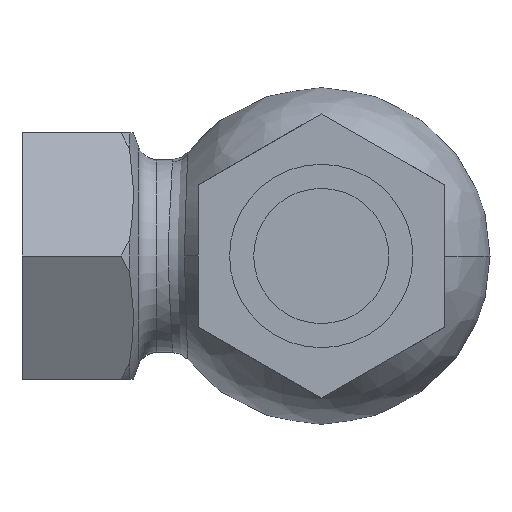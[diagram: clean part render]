
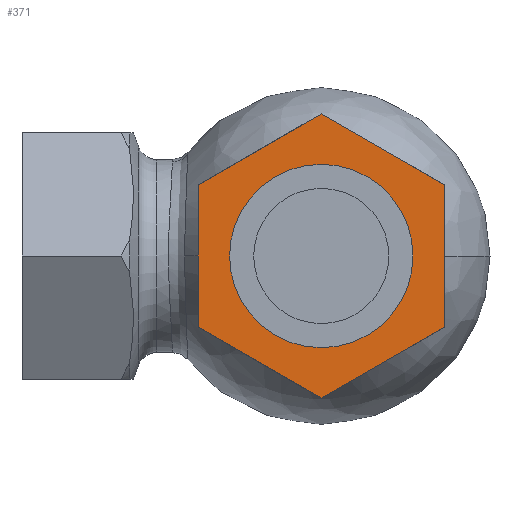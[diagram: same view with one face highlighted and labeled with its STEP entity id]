
A CAD part, front view. The second image highlights one B-rep face of the part: STEP entity #371.
In plain terms, the highlighted planar face has unit normal (0, -1, 0).
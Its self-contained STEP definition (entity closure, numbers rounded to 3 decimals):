
#43 = AXIS2_PLACEMENT_3D ( 'NONE', #6300, #3689, #4902 ) ;
#77 = EDGE_CURVE ( 'NONE', #5910, #2987, #213, .T. ) ;
#92 = LINE ( 'NONE', #5645, #1635 ) ;
#192 = CARTESIAN_POINT ( 'NONE',  ( 9.5, -25., 0. ) ) ;
#213 = CIRCLE ( 'NONE', #1811, 9.5 ) ;
#371 = ADVANCED_FACE ( 'NONE', ( #5614, #6328 ), #2210, .F. ) ;
#531 = VERTEX_POINT ( 'NONE', #7267 ) ;
#1054 = CIRCLE ( 'NONE', #43, 9.5 ) ;
#1580 = CARTESIAN_POINT ( 'NONE',  ( -12.75, -25., -7.361 ) ) ;
#1634 = ORIENTED_EDGE ( 'NONE', *, *, #8003, .T. ) ;
#1635 = VECTOR ( 'NONE', #2147, 1000. ) ;
#1639 = DIRECTION ( 'NONE',  ( 0., 1., 0. ) ) ;
#1652 = VERTEX_POINT ( 'NONE', #3824 ) ;
#1811 = AXIS2_PLACEMENT_3D ( 'NONE', #2806, #6257, #5546 ) ;
#2078 = VECTOR ( 'NONE', #8426, 1000. ) ;
#2147 = DIRECTION ( 'NONE',  ( 0.866, 0., 0.5 ) ) ;
#2210 = PLANE ( 'NONE',  #5509 ) ;
#2400 = CARTESIAN_POINT ( 'NONE',  ( 12.75, -25., 7.361 ) ) ;
#2409 = ORIENTED_EDGE ( 'NONE', *, *, #4478, .T. ) ;
#2510 = EDGE_CURVE ( 'NONE', #5686, #1652, #5687, .T. ) ;
#2806 = CARTESIAN_POINT ( 'NONE',  ( 0., -25., 0. ) ) ;
#2987 = VERTEX_POINT ( 'NONE', #7730 ) ;
#3107 = VERTEX_POINT ( 'NONE', #8173 ) ;
#3138 = CARTESIAN_POINT ( 'NONE',  ( 12.75, -25., 7.361 ) ) ;
#3375 = VERTEX_POINT ( 'NONE', #3398 ) ;
#3398 = CARTESIAN_POINT ( 'NONE',  ( 12.75, -25., -7.361 ) ) ;
#3605 = ORIENTED_EDGE ( 'NONE', *, *, #2510, .T. ) ;
#3642 = VECTOR ( 'NONE', #6674, 1000. ) ;
#3689 = DIRECTION ( 'NONE',  ( 0., 1., 0. ) ) ;
#3783 = LINE ( 'NONE', #2400, #5914 ) ;
#3824 = CARTESIAN_POINT ( 'NONE',  ( -12.75, -25., -7.361 ) ) ;
#3847 = CARTESIAN_POINT ( 'NONE',  ( 0., -25., 9.5 ) ) ;
#3989 = ORIENTED_EDGE ( 'NONE', *, *, #7877, .T. ) ;
#4014 = EDGE_LOOP ( 'NONE', ( #7177, #1634 ) ) ;
#4068 = ORIENTED_EDGE ( 'NONE', *, *, #8261, .T. ) ;
#4286 = DIRECTION ( 'NONE',  ( 0.866, 0., -0.5 ) ) ;
#4330 = EDGE_LOOP ( 'NONE', ( #4068, #2409, #3605, #3989, #7632, #6757 ) ) ;
#4351 = DIRECTION ( 'NONE',  ( 0., 0., 1. ) ) ;
#4391 = LINE ( 'NONE', #6046, #8492 ) ;
#4478 = EDGE_CURVE ( 'NONE', #531, #5686, #8710, .T. ) ;
#4902 = DIRECTION ( 'NONE',  ( 0., 0., 1. ) ) ;
#5287 = CARTESIAN_POINT ( 'NONE',  ( 0., -25., 14.722 ) ) ;
#5509 = AXIS2_PLACEMENT_3D ( 'NONE', #192, #1639, #4351 ) ;
#5546 = DIRECTION ( 'NONE',  ( 0., 0., 1. ) ) ;
#5562 = CARTESIAN_POINT ( 'NONE',  ( -12.75, -25., 7.361 ) ) ;
#5614 = FACE_BOUND ( 'NONE', #4014, .T. ) ;
#5645 = CARTESIAN_POINT ( 'NONE',  ( 0., -25., -14.722 ) ) ;
#5686 = VERTEX_POINT ( 'NONE', #5562 ) ;
#5687 = LINE ( 'NONE', #8565, #2078 ) ;
#5910 = VERTEX_POINT ( 'NONE', #3847 ) ;
#5914 = VECTOR ( 'NONE', #7835, 1000. ) ;
#6046 = CARTESIAN_POINT ( 'NONE',  ( 12.75, -25., -7.361 ) ) ;
#6065 = VERTEX_POINT ( 'NONE', #3138 ) ;
#6257 = DIRECTION ( 'NONE',  ( 0., 1., 0. ) ) ;
#6273 = EDGE_CURVE ( 'NONE', #3107, #3375, #92, .T. ) ;
#6300 = CARTESIAN_POINT ( 'NONE',  ( 0., -25., 0. ) ) ;
#6328 = FACE_OUTER_BOUND ( 'NONE', #4330, .T. ) ;
#6674 = DIRECTION ( 'NONE',  ( -0.866, 0., -0.5 ) ) ;
#6757 = ORIENTED_EDGE ( 'NONE', *, *, #7605, .T. ) ;
#7177 = ORIENTED_EDGE ( 'NONE', *, *, #77, .T. ) ;
#7267 = CARTESIAN_POINT ( 'NONE',  ( 0., -25., 14.722 ) ) ;
#7605 = EDGE_CURVE ( 'NONE', #3375, #6065, #4391, .T. ) ;
#7632 = ORIENTED_EDGE ( 'NONE', *, *, #6273, .T. ) ;
#7730 = CARTESIAN_POINT ( 'NONE',  ( 0., -25., -9.5 ) ) ;
#7835 = DIRECTION ( 'NONE',  ( -0.866, 0., 0.5 ) ) ;
#7877 = EDGE_CURVE ( 'NONE', #1652, #3107, #8390, .T. ) ;
#8003 = EDGE_CURVE ( 'NONE', #2987, #5910, #1054, .T. ) ;
#8122 = DIRECTION ( 'NONE',  ( 0., 0., 1. ) ) ;
#8173 = CARTESIAN_POINT ( 'NONE',  ( 0., -25., -14.722 ) ) ;
#8261 = EDGE_CURVE ( 'NONE', #6065, #531, #3783, .T. ) ;
#8390 = LINE ( 'NONE', #1580, #8792 ) ;
#8426 = DIRECTION ( 'NONE',  ( 0., 0., -1. ) ) ;
#8492 = VECTOR ( 'NONE', #8122, 1000. ) ;
#8565 = CARTESIAN_POINT ( 'NONE',  ( -12.75, -25., 7.361 ) ) ;
#8710 = LINE ( 'NONE', #5287, #3642 ) ;
#8792 = VECTOR ( 'NONE', #4286, 1000. ) ;
